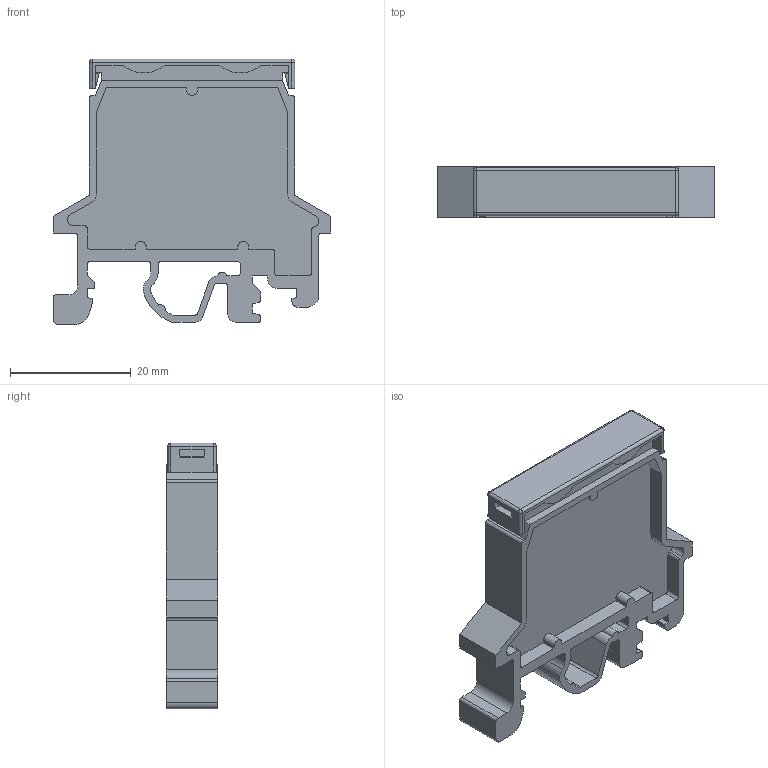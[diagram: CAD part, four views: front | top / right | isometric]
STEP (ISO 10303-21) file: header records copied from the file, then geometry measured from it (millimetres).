
FILE_DESCRIPTION(('STEP AP214'), '1');
FILE_NAME('Äåðæàòåëü ìàðêèðîâî÷íûé ÊÌ1 (çàêàç÷èêàì)', '2022-05-28T06:51:39', (''), (''), 'ASCON STEP Converter 1.6', 'ASCON Math Kernel', '');
FILE_SCHEMA(('AUTOMOTIVE_DESIGN { 1 0 10303 214 3 1 1}'));
Length unit declared in the file: millimetre
Bounding box: 46 x 8.5 x 44 mm (x, y, z)
Volume: 9214 mm3; surface area: 5692 mm2
Topology: 1 solids, 1 shells, 563 faces, 1617 edges, 1066 vertices
Faces by surface type: plane 378, cylinder 181, sphere 4
Entity records: 22881 total; most frequent: CARTESIAN_POINT 3243, ORIENTED_EDGE 3226, DIRECTION 3103, EDGE_CURVE 1613, LINE 1251, VECTOR 1251, VERTEX_POINT 1066, AXIS2_PLACEMENT_3D 926
